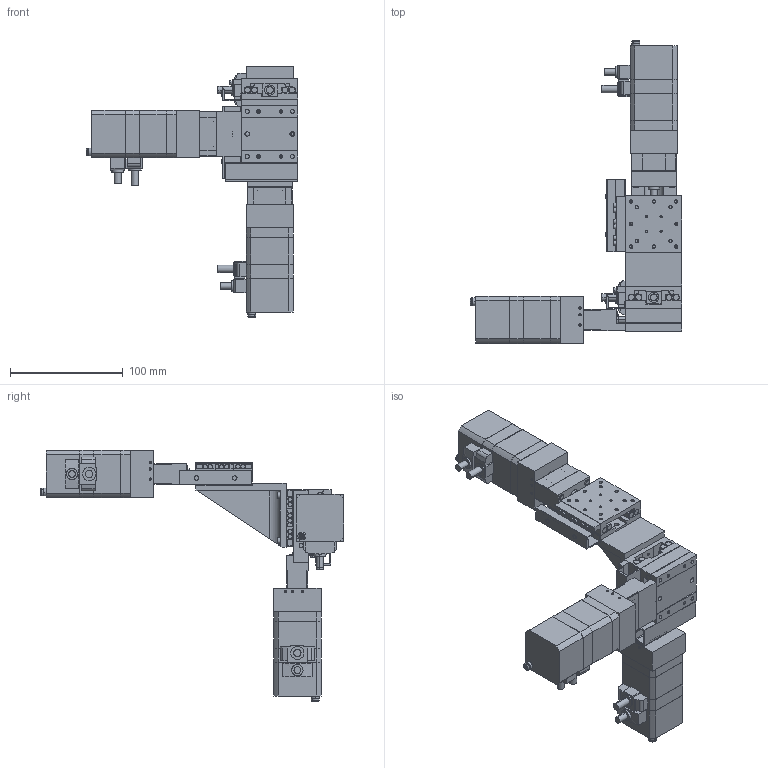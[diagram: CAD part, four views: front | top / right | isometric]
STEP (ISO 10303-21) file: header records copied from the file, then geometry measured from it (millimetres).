
FILE_DESCRIPTION(('STEP AP203'),'1');
FILE_NAME('C:/3D-Trans/3D_PMZG513T-L□-MA+240129.step','2024-03-14T08:11:58',(' '),(' '),'Spatial InterOp 3D',' ',' ');
FILE_SCHEMA(('CONFIG_CONTROL_DESIGN'));
Length unit declared in the file: millimetre
Products named in the file (19): 1; 2; 3; 4; 5; 6; 7; 8; 9; 10; 11; 12; 13; 14; 15; 16; 17; 18; 19
Bounding box: 188 x 269 x 223 mm (x, y, z)
Volume: 745903.7 mm3; surface area: 196527.8 mm2
Topology: 19 solids, 19 shells, 2030 faces, 5143 edges, 3228 vertices
Faces by surface type: plane 1013, cylinder 685, cone 320, torus 12
Entity records: 61675 total; most frequent: DIRECTION 10943, CARTESIAN_POINT 10624, ORIENTED_EDGE 10118, EDGE_CURVE 5059, AXIS2_PLACEMENT_3D 3877, VERTEX_POINT 3228, LINE 3189, VECTOR 3189
